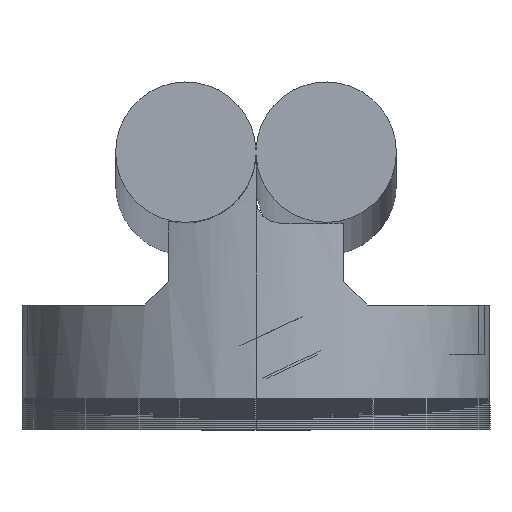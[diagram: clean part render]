
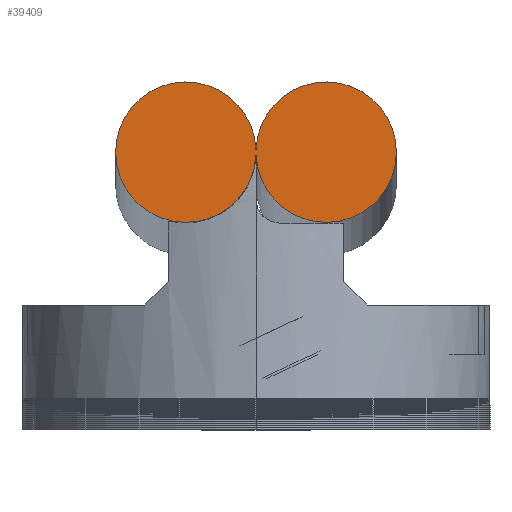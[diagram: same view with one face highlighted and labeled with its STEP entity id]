
A CAD part, top view. The second image highlights one B-rep face of the part: STEP entity #39409.
In plain terms, the highlighted planar face has unit normal (0, 0, 1).
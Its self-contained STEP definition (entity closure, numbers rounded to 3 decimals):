
#5896 = CARTESIAN_POINT ( 'NONE',  ( -0.005, 20.75, 0. ) ) ;
#6015 = LINE ( 'NONE', #6073, #6072 ) ;
#6046 = AXIS2_PLACEMENT_3D ( 'NONE', #6102, #6101, #6100 ) ;
#6047 = CIRCLE ( 'NONE', #6046, 6. ) ;
#6071 = DIRECTION ( 'NONE',  ( 1., 0., 0. ) ) ;
#6072 = VECTOR ( 'NONE', #6071, 1000. ) ;
#6073 = CARTESIAN_POINT ( 'NONE',  ( -0.005, 20.75, 0. ) ) ;
#6098 = CARTESIAN_POINT ( 'NONE',  ( -0.005, 21.25, 0. ) ) ;
#6100 = DIRECTION ( 'NONE',  ( -1., 0., 0. ) ) ;
#6101 = DIRECTION ( 'NONE',  ( 0., 0., 1. ) ) ;
#6102 = CARTESIAN_POINT ( 'NONE',  ( -6., 21., 0. ) ) ;
#8314 = CARTESIAN_POINT ( 'NONE',  ( 0.005, 21.25, 0. ) ) ;
#8405 = CIRCLE ( 'NONE', #8460, 6. ) ;
#8411 = DIRECTION ( 'NONE',  ( 1., 0., 0. ) ) ;
#8412 = DIRECTION ( 'NONE',  ( 0., 0., 1. ) ) ;
#8413 = CARTESIAN_POINT ( 'NONE',  ( 6., 21., 0. ) ) ;
#8414 = AXIS2_PLACEMENT_3D ( 'NONE', #8413, #8412, #8411 ) ;
#8415 = PLANE ( 'NONE',  #8414 ) ;
#8431 = FACE_OUTER_BOUND ( 'NONE', #39410, .T. ) ;
#8433 = DIRECTION ( 'NONE',  ( -1., 0., 0. ) ) ;
#8434 = VECTOR ( 'NONE', #8433, 1000. ) ;
#8435 = CARTESIAN_POINT ( 'NONE',  ( -0.005, 21.25, 0. ) ) ;
#8436 = LINE ( 'NONE', #8435, #8434 ) ;
#8457 = DIRECTION ( 'NONE',  ( 1., 0., 0. ) ) ;
#8458 = DIRECTION ( 'NONE',  ( 0., 0., 1. ) ) ;
#8459 = CARTESIAN_POINT ( 'NONE',  ( 6., 21., 0. ) ) ;
#8460 = AXIS2_PLACEMENT_3D ( 'NONE', #8459, #8458, #8457 ) ;
#28841 = VERTEX_POINT ( 'NONE', #51140 ) ;
#28843 = VERTEX_POINT ( 'NONE', #51139 ) ;
#28958 = EDGE_CURVE ( 'NONE', #28843, #28841, #51383, .T. ) ;
#32392 = ORIENTED_EDGE ( 'NONE', *, *, #33573, .T. ) ;
#33447 = VERTEX_POINT ( 'NONE', #5896 ) ;
#33557 = EDGE_CURVE ( 'NONE', #33447, #28843, #6015, .T. ) ;
#33573 = EDGE_CURVE ( 'NONE', #33575, #33447, #6047, .T. ) ;
#33575 = VERTEX_POINT ( 'NONE', #6098 ) ;
#39359 = VERTEX_POINT ( 'NONE', #8314 ) ;
#39409 = ADVANCED_FACE ( 'NONE', ( #8431 ), #8415, .T. ) ;
#39410 = EDGE_LOOP ( 'NONE', ( #39411, #39412, #39413, #32392, #46792 ) ) ;
#39411 = ORIENTED_EDGE ( 'NONE', *, *, #28958, .T. ) ;
#39412 = ORIENTED_EDGE ( 'NONE', *, *, #39417, .T. ) ;
#39413 = ORIENTED_EDGE ( 'NONE', *, *, #39421, .T. ) ;
#39417 = EDGE_CURVE ( 'NONE', #28841, #39359, #8405, .T. ) ;
#39421 = EDGE_CURVE ( 'NONE', #39359, #33575, #8436, .T. ) ;
#46792 = ORIENTED_EDGE ( 'NONE', *, *, #33557, .T. ) ;
#51139 = CARTESIAN_POINT ( 'NONE',  ( 0.005, 20.75, 0. ) ) ;
#51140 = CARTESIAN_POINT ( 'NONE',  ( 12., 21., 0. ) ) ;
#51379 = DIRECTION ( 'NONE',  ( 1., 0., 0. ) ) ;
#51380 = DIRECTION ( 'NONE',  ( 0., 0., 1. ) ) ;
#51381 = CARTESIAN_POINT ( 'NONE',  ( 6., 21., 0. ) ) ;
#51382 = AXIS2_PLACEMENT_3D ( 'NONE', #51381, #51380, #51379 ) ;
#51383 = CIRCLE ( 'NONE', #51382, 6. ) ;
